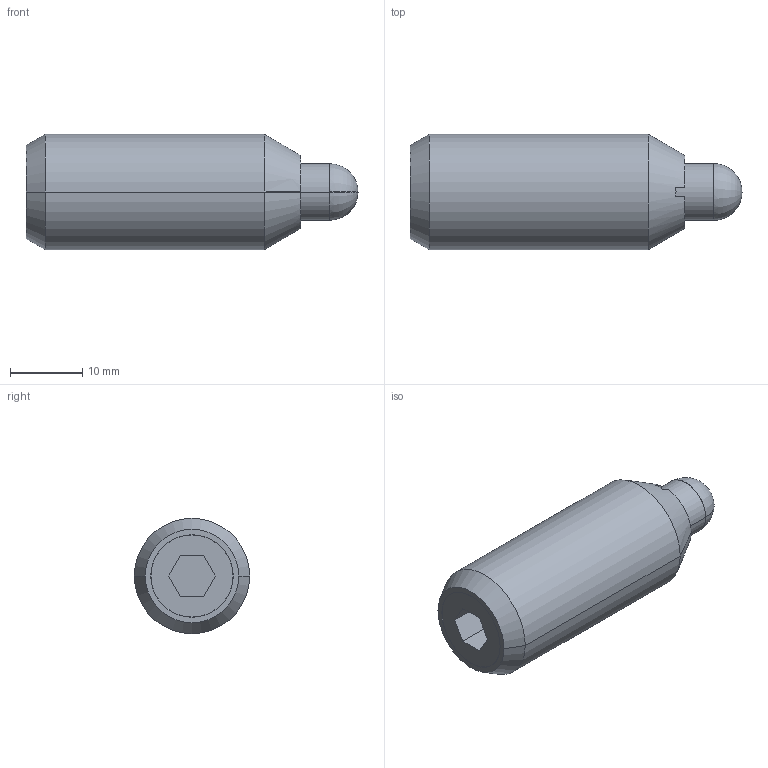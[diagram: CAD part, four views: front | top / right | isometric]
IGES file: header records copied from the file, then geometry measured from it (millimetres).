
Start section:  PTC IGES file: s62-3d.igs
Global section: file name: s62-3d.igs; native system: Pro/ENGINEER by Parametric Technology Corporation; preprocessor: 2002350; author: chant; organization: Unknown; date: 061031.143152; units: inch
Bounding box: 46.05 x 16 x 16 mm (x, y, z)
Surface area: 2669.3 mm2 (no closed solid volume)
Topology: 0 solids, 0 shells, 32 faces, 222 edges, 280 vertices
Faces by surface type: bspline 16, revolution 16
